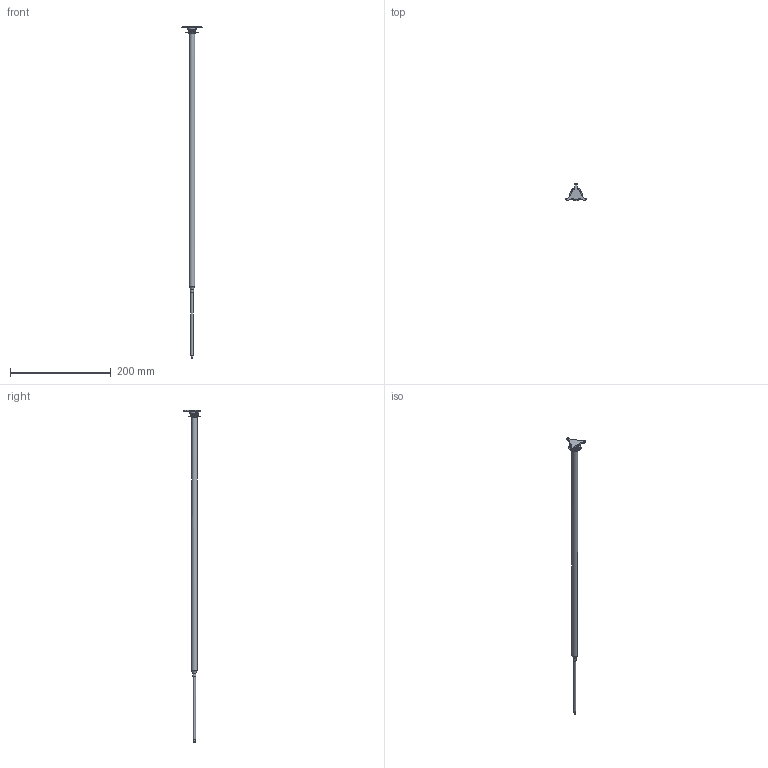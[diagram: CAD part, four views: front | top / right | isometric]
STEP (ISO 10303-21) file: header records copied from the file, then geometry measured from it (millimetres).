
FILE_DESCRIPTION(/* description */ (''),/* implementation_level */ '2;1');
FILE_NAME(/* name */ 'LA-6084-0800-A.stp',/* time_stamp */ '2014-06-03T14:36:06+01:00',/* author */ (''),/* organization */ (''),/* preprocessor_version */ 'ST-DEVELOPER v11',/* originating_system */ 'SIEMENS PLM Software NX 7.5',/* authorisation */ '');
FILE_SCHEMA (('AUTOMOTIVE_DESIGN { 1 0 10303 214 1 1 1 1 }'));
Length unit declared in the file: millimetre
Products named in the file (1): ej13DD85l5ge
Bounding box: 40.73 x 35.6 x 659.37 mm (x, y, z)
Volume: 56962.1 mm3; surface area: 22666 mm2
Topology: 1 solids, 1 shells, 159 faces, 494 edges, 386 vertices
Faces by surface type: plane 71, cylinder 55, cone 31, torus 2
Full cylindrical faces by diameter (mm): 1.7 x1, 2.2 x1, 3 x1, 4.65 x1, 4.8 x1, 6 x1, 11.1 x1, 11.25 x1, 13.05 x1, 13.46 x1, 15 x2, 18 x1, 25 x1
Entity records: 7225 total; most frequent: CARTESIAN_POINT 2014, ORIENTED_EDGE 908, DIRECTION 683, EDGE_CURVE 454, VERTEX_POINT 376, AXIS2_PLACEMENT_3D 288, EDGE_LOOP 237, B_SPLINE_CURVE_WITH_KNOTS 219
